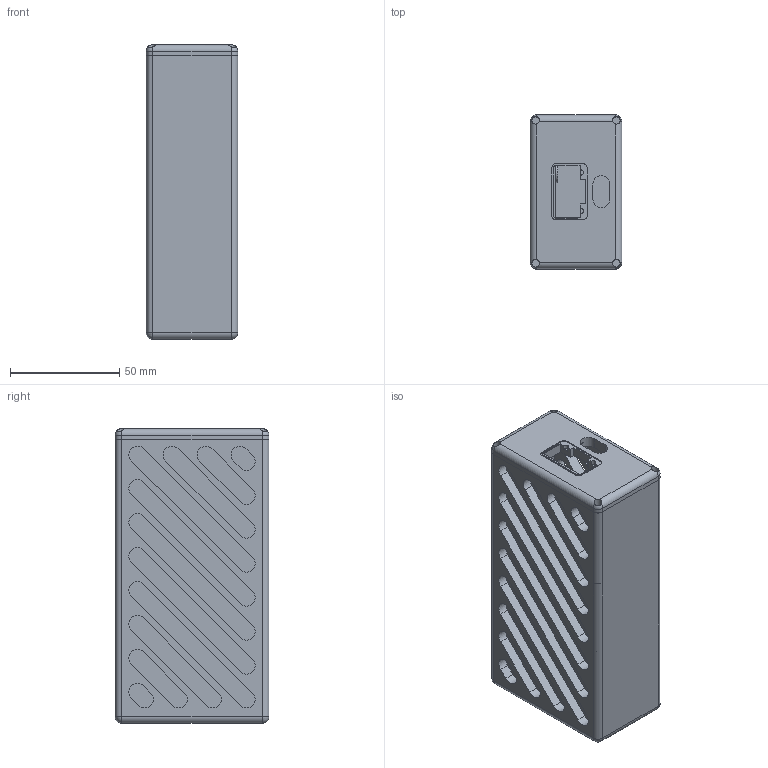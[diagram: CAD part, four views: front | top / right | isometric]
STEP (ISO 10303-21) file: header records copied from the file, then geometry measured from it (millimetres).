
FILE_DESCRIPTION( ( 'STEP Version 203' ), '1' );
FILE_NAME( 'wled_esp32.stp', '09/21/25 21:33:49', ( '' ), ( '' ), 'PSStep 21.0.47', 'DesignModeler STEP Output', ' ' );
FILE_SCHEMA( ( 'CONFIG_CONTROL_DESIGN' ) );
Length unit declared in the file: metre
Products named in the file (3): Slide; Front; Box
Bounding box: 42 x 70.5 x 135 mm (x, y, z)
Volume: 121011.3 mm3; surface area: 80153 mm2
Topology: 3 solids, 3 shells, 298 faces, 821 edges, 540 vertices
Faces by surface type: plane 158, cylinder 94, bspline 34, sphere 8, cone 4
Full cylindrical faces by diameter (mm): 3 x2, 3.5 x8, 3.9 x4, 5 x4, 9 x4
Entity records: 10911 total; most frequent: CARTESIAN_POINT 3442, ORIENTED_EDGE 1546, DIRECTION 1415, EDGE_CURVE 773, VERTEX_POINT 522, LINE 505, VECTOR 505, AXIS2_PLACEMENT_3D 455
